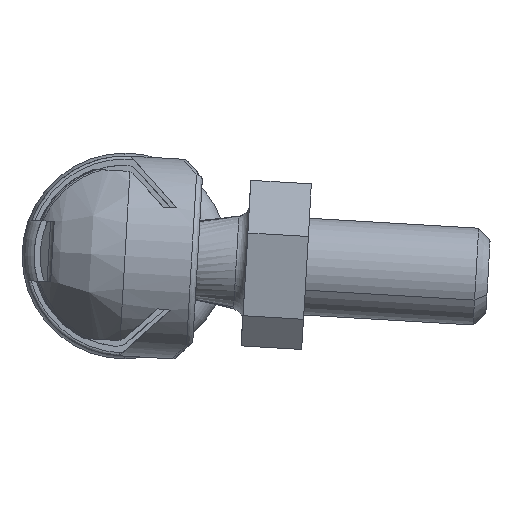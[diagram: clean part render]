
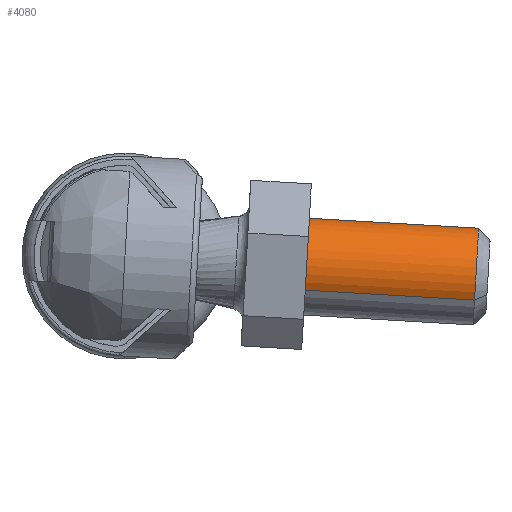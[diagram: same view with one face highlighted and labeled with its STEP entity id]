
A CAD part, left-side view. The second image highlights one B-rep face of the part: STEP entity #4080.
In plain terms, the highlighted cylindrical face has radius 4 mm (diameter 8 mm), a partial arc.
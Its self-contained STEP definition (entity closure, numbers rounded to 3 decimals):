
#132 = CARTESIAN_POINT ( 'NONE',  ( -4., 0., 20. ) ) ;
#244 = LINE ( 'NONE', #132, #7007 ) ;
#287 = FACE_OUTER_BOUND ( 'NONE', #7251, .T. ) ;
#496 = ORIENTED_EDGE ( 'NONE', *, *, #4097, .T. ) ;
#884 = ORIENTED_EDGE ( 'NONE', *, *, #7030, .T. ) ;
#1180 = CARTESIAN_POINT ( 'NONE',  ( -4., 0., 5. ) ) ;
#1342 = AXIS2_PLACEMENT_3D ( 'NONE', #3782, #2458, #2560 ) ;
#1385 = CARTESIAN_POINT ( 'NONE',  ( 0., 0., 5. ) ) ;
#1505 = VERTEX_POINT ( 'NONE', #5336 ) ;
#1591 = AXIS2_PLACEMENT_3D ( 'NONE', #5551, #6244, #2052 ) ;
#1876 = DIRECTION ( 'NONE',  ( 0., 0., -1. ) ) ;
#2052 = DIRECTION ( 'NONE',  ( 1., 0., 0. ) ) ;
#2458 = DIRECTION ( 'NONE',  ( 0., 0., -1. ) ) ;
#2528 = ORIENTED_EDGE ( 'NONE', *, *, #4936, .T. ) ;
#2560 = DIRECTION ( 'NONE',  ( -1., 0., 0. ) ) ;
#2598 = DIRECTION ( 'NONE',  ( 0., 0., 1. ) ) ;
#3281 = AXIS2_PLACEMENT_3D ( 'NONE', #1385, #2598, #4360 ) ;
#3285 = ORIENTED_EDGE ( 'NONE', *, *, #4050, .F. ) ;
#3782 = CARTESIAN_POINT ( 'NONE',  ( 0., 0., 20. ) ) ;
#4050 = EDGE_CURVE ( 'NONE', #7311, #5081, #244, .T. ) ;
#4080 = ADVANCED_FACE ( 'NONE', ( #287 ), #5375, .T. ) ;
#4097 = EDGE_CURVE ( 'NONE', #1505, #5081, #5631, .T. ) ;
#4272 = LINE ( 'NONE', #4850, #7404 ) ;
#4360 = DIRECTION ( 'NONE',  ( 1., 0., 0. ) ) ;
#4850 = CARTESIAN_POINT ( 'NONE',  ( 4., 0., 20. ) ) ;
#4879 = CARTESIAN_POINT ( 'NONE',  ( 4., 0., 19. ) ) ;
#4936 = EDGE_CURVE ( 'NONE', #7311, #6146, #7016, .T. ) ;
#5081 = VERTEX_POINT ( 'NONE', #1180 ) ;
#5336 = CARTESIAN_POINT ( 'NONE',  ( 4., 0., 5. ) ) ;
#5375 = CYLINDRICAL_SURFACE ( 'NONE', #1342, 4. ) ;
#5551 = CARTESIAN_POINT ( 'NONE',  ( 0., 0., 19. ) ) ;
#5579 = CARTESIAN_POINT ( 'NONE',  ( -4., 0., 19. ) ) ;
#5631 = CIRCLE ( 'NONE', #3281, 4. ) ;
#6146 = VERTEX_POINT ( 'NONE', #4879 ) ;
#6244 = DIRECTION ( 'NONE',  ( 0., 0., -1. ) ) ;
#6729 = DIRECTION ( 'NONE',  ( 0., 0., -1. ) ) ;
#7007 = VECTOR ( 'NONE', #6729, 1000. ) ;
#7016 = CIRCLE ( 'NONE', #1591, 4. ) ;
#7030 = EDGE_CURVE ( 'NONE', #6146, #1505, #4272, .T. ) ;
#7251 = EDGE_LOOP ( 'NONE', ( #2528, #884, #496, #3285 ) ) ;
#7311 = VERTEX_POINT ( 'NONE', #5579 ) ;
#7404 = VECTOR ( 'NONE', #1876, 1000. ) ;
